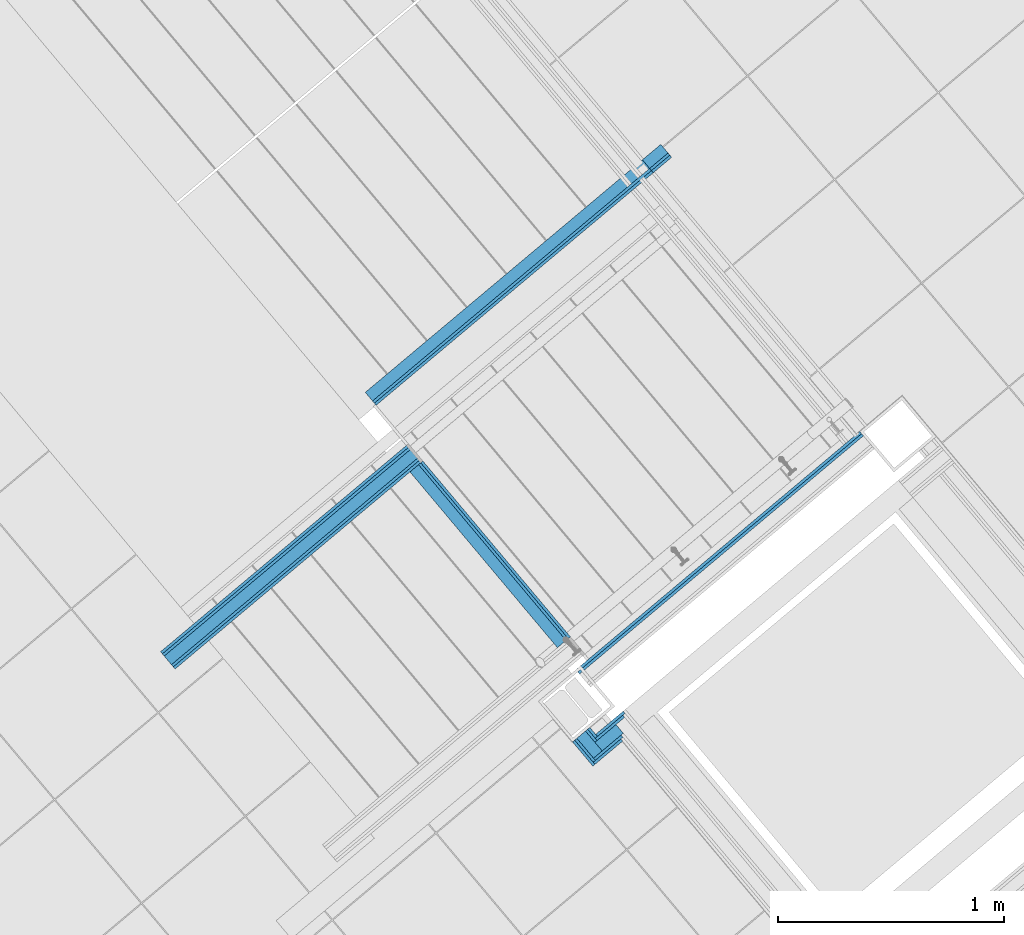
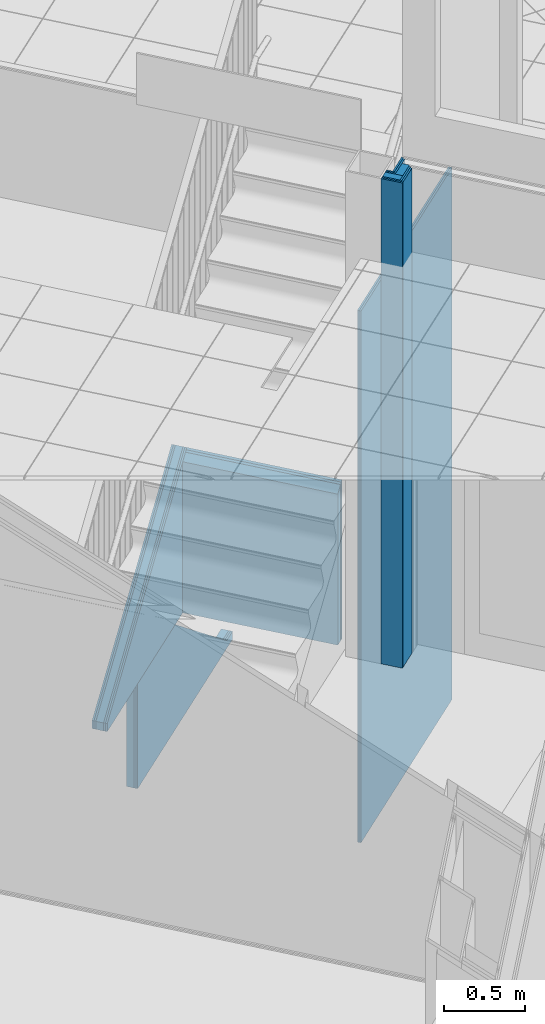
# One storey, part 69 of 338: 23 building element parts, 6 elements without a shape of their own.
"""IFC2X3 building model written with IfcOpenShell, lengths in millimetres."""

from ifc_helpers import new_model, entity, si_unit, converted_unit, derived_unit, money_unit, direction, frame, origin_with_axes, place, context, subcontext, project, spatial, faceted_brep, material, type_object, element, aggregate, save


model = new_model("IFC2X3")

# Units and contexts
model_context = context("Model", 3, precision=0.01, world=origin_with_axes(), true_north=direction((0.0, 1.0)))
plan_context = context("Plan", 3, precision=0.01, world=origin_with_axes(), true_north=direction((0.0, 1.0)))
body_context = subcontext(model_context, "Body", "Model", "MODEL_VIEW")
ifc_project = project(units=[si_unit("LENGTHUNIT", "METRE", prefix="MILLI"), si_unit("AREAUNIT", "SQUARE_METRE"), si_unit("VOLUMEUNIT", "CUBIC_METRE"), converted_unit("PLANEANGLEUNIT", "DEGREE", entity("IfcPlaneAngleMeasure", 0.0174532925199), si_unit("PLANEANGLEUNIT", "RADIAN"), dimensions=[0, 0, 0, 0, 0, 0, 0]), money_unit("EUR"), converted_unit("TIMEUNIT", "Year", entity("IfcTimeMeasure", 31556926.0), si_unit("TIMEUNIT", "SECOND"), dimensions=[0, 0, 1, 0, 0, 0, 0]), si_unit("MASSUNIT", "GRAM", prefix="KILO"), si_unit("THERMODYNAMICTEMPERATUREUNIT", "DEGREE_CELSIUS"), si_unit("LUMINOUSINTENSITYUNIT", "LUMEN"), si_unit("ENERGYUNIT", "JOULE", prefix="MEGA"), derived_unit("THERMALCONDUCTANCEUNIT", [(si_unit("POWERUNIT", "WATT"), 1), (si_unit("LENGTHUNIT", "METRE"), -1), (si_unit("THERMODYNAMICTEMPERATUREUNIT", "KELVIN"), -1)]), derived_unit("SPECIFICHEATCAPACITYUNIT", [(si_unit("ENERGYUNIT", "JOULE"), 1), (si_unit("MASSUNIT", "GRAM", prefix="KILO"), -1), (si_unit("THERMODYNAMICTEMPERATUREUNIT", "KELVIN"), -1)]), derived_unit("MASSDENSITYUNIT", [(si_unit("MASSUNIT", "GRAM", prefix="KILO"), 1), (si_unit("VOLUMEUNIT", "CUBIC_METRE"), -1)])], contexts=[model_context, plan_context])

# Site, building, storey
site_placement = place(None, origin_with_axes())
site = spatial("IfcSite", under=ifc_project, at=site_placement, Name="Fortuinstraat Woensdrecht", CompositionType="ELEMENT")
building_placement = place(site_placement, origin_with_axes())
building = spatial("IfcBuilding", under=site, at=building_placement, Name="IKC Fortuna", CompositionType="ELEMENT")
storey_placement = place(building_placement, origin_with_axes())
storey = spatial("IfcBuildingStorey", under=building, at=storey_placement, Name="00 begane grond", CompositionType="ELEMENT", Elevation=0.0)

# Wall, building element parts
wall_type_1 = type_object("IfcWallType", Name="MS75 50.2A 75", PredefinedType="NOTDEFINED")
wall_1_placement = place(storey_placement, frame((20977.235377, 3057.79515396, -90.0), z_axis=(0.0, 0.0, 1.0), x_axis=(-0.766052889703, -0.642777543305, 0.0)))
wall_1 = element("IfcWall", 1, at=wall_1_placement, inside=storey, type_object=wall_type_1, Name="22_Wand_Binnenwand")
ifc_material_1 = material(Name="Gipsplaat")
building_element_part_1_placement = place(wall_1_placement, origin_with_axes())
building_element_part_1 = element("IfcBuildingElementPart", 2, at=building_element_part_1_placement, material=ifc_material_1, Name="Gipsplaat", context=body_context, shape_type="Brep", body=[
    faceted_brep([(0.0, -12.5, 60.0), (0.0, 0.0, 60.0), (0.0, 0.0, 0.0), (0.0, -12.5, 0.0), (106.419482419, 0.00139842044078, 60.0), (106.419646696, -12.5, 60.0), (266.846786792, 0.00350653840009, 186.423690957), (1709.99996704, 0.022470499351, 1323.69114288), (1710.00228549, 0.0, 0.0), (1710.00228549, -12.5, 0.0), (1710.00013159, -12.5000000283, 1323.69114288), (266.846951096, -12.5, 186.423690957)], [[[0, 1, 2, 3]], [[4, 1, 0, 5]], [[6, 7, 8, 2, 1, 4]], [[9, 3, 2, 8]], [[5, 0, 3, 9, 10, 11]], [[6, 4, 5, 11]], [[6, 11, 10, 7]], [[7, 10, 9, 8]]]),
])
building_element_part_2_placement = place(wall_1_placement, origin_with_axes())
building_element_part_2 = element("IfcBuildingElementPart", 3, at=building_element_part_2_placement, material=ifc_material_1, Name="Gipsplaat", context=body_context, shape_type="Brep", body=[
    faceted_brep([(0.0, -25.0, 60.0), (0.0, -12.5, 60.0), (0.0, -12.5, 0.0), (0.0, -25.0, 0.0), (106.419646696, -12.5, 60.0), (106.419810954, -25.0, 60.0), (266.846951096, -12.5, 186.423690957), (1710.00013159, -12.5000000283, 1323.69114288), (1710.00228549, -12.5, 0.0), (1710.00228549, -25.0, 0.0), (1710.00029585, -25.0000000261, 1323.69114288), (266.847115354, -25.0, 186.423690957)], [[[0, 1, 2, 3]], [[4, 1, 0, 5]], [[6, 7, 8, 2, 1, 4]], [[9, 3, 2, 8]], [[5, 0, 3, 9, 10, 11]], [[6, 4, 5, 11]], [[7, 6, 11, 10]], [[7, 10, 9, 8]]]),
])
ifc_material_2 = material(Name="Isolatie - Steenwol LSW")
building_element_part_3_placement = place(wall_1_placement, origin_with_axes())
building_element_part_3 = element("IfcBuildingElementPart", 4, at=building_element_part_3_placement, material=ifc_material_2, Name="Isolatie - Steenwol LSW", context=body_context, shape_type="Brep", body=[
    faceted_brep([(0.0, -75.0, 60.0), (0.0, -25.0, 60.0), (0.0, -25.0, 0.0), (0.0, -75.0, 0.0), (106.419810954, -25.0, 60.0), (106.420467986, -75.0, 60.0), (266.847115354, -25.0, 186.423690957), (1710.00029585, -25.0000000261, 1323.69114288), (1710.00228549, -25.0, 0.0), (1710.00228549, -75.0, 0.0), (1710.00095288, -75.0000000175, 1323.69114288), (266.847772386, -75.0, 186.423690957)], [[[0, 1, 2, 3]], [[4, 1, 0, 5]], [[6, 7, 8, 2, 1, 4]], [[9, 3, 2, 8]], [[5, 0, 3, 9, 10, 11]], [[6, 4, 5, 11]], [[7, 6, 11, 10]], [[7, 10, 9, 8]]]),
])
aggregate(wall_1, [building_element_part_1, building_element_part_2, building_element_part_3])

wall_type_2 = type_object("IfcWallType", Name="MS100 2.50.2A 100", PredefinedType="NOTDEFINED")
wall_2_placement = place(storey_placement, frame((21811.0378259, 1842.40598777, -90.0), z_axis=(0.0, 0.0, 1.0), x_axis=(-0.766044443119, -0.642787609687, 0.0)))
wall_2 = element("IfcWall", 5, at=wall_2_placement, inside=storey, type_object=wall_type_2, Name="22_Wand_Binnenwand")
building_element_part_4_placement = place(wall_2_placement, origin_with_axes())
building_element_part_4 = element("IfcBuildingElementPart", 6, at=building_element_part_4_placement, material=ifc_material_1, Name="Gipsplaat", context=body_context, shape_type="Brep", body=[
    faceted_brep([(1642.49258877, 12.5, 4000.0), (1642.49258877, 25.0, 4000.0), (0.0, 25.0, 4000.0), (0.0, 12.5, 4000.0), (1642.49258877, 12.5, 0.0), (1642.49258877, 25.0, 0.0), (0.0, 25.0, 0.0), (0.0, 12.5, 0.0)], [[[0, 1, 2, 3]], [[0, 4, 5, 1]], [[1, 5, 6, 2]], [[3, 2, 6, 7]], [[4, 0, 3, 7]], [[5, 4, 7, 6]]]),
])
building_element_part_5_placement = place(wall_2_placement, origin_with_axes())
building_element_part_5 = element("IfcBuildingElementPart", 7, at=building_element_part_5_placement, material=ifc_material_1, Name="Gipsplaat", context=body_context, shape_type="Brep", body=[
    faceted_brep([(1642.49258877, 0.0, 4000.0), (1642.49258877, 12.5, 4000.0), (0.0, 12.5, 4000.0), (0.0, 0.0, 4000.0), (1642.49258877, 0.0, 0.0), (1642.49258877, 12.5, 0.0), (0.0, 12.5, 0.0), (0.0, 0.0, 0.0)], [[[0, 1, 2, 3]], [[0, 4, 5, 1]], [[1, 5, 6, 2]], [[3, 2, 6, 7]], [[4, 0, 3, 7]], [[5, 4, 7, 6]]]),
])
aggregate(wall_2, [building_element_part_4, building_element_part_5])

wall_3_placement = place(storey_placement, frame((18711.8878376, 866.446851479, 1360.0), z_axis=(0.0, 0.0, 1.0), x_axis=(0.766044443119, 0.642787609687, 0.0)))
wall_3 = element("IfcWall", 8, at=wall_3_placement, inside=storey, type_object=wall_type_2, Name="22_Wand_Binnenwand")
building_element_part_6_placement = place(wall_3_placement, origin_with_axes())
building_element_part_6 = element("IfcBuildingElementPart", 9, at=building_element_part_6_placement, material=ifc_material_1, Name="Gipsplaat", context=body_context, shape_type="Brep", body=[
    faceted_brep([(1433.92843167, 0.0, 1195.56444123), (1433.92843167, -12.5, 1195.56444123), (1433.92843167, -12.5, 0.0), (1433.92843167, 0.0, 0.0), (160.970417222, -12.5, 187.476572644), (160.970417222, 0.0, 187.476572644), (0.0, -12.5, 60.0), (0.0, -12.5, 0.0), (0.0, 0.0, 0.0), (0.0, 0.0, 60.0)], [[[0, 1, 2, 3]], [[4, 1, 0, 5]], [[4, 6, 7, 2, 1]], [[8, 3, 2, 7]], [[5, 0, 3, 8, 9]], [[6, 4, 5, 9]], [[6, 9, 8, 7]]]),
])
building_element_part_7_placement = place(wall_3_placement, origin_with_axes())
building_element_part_7 = element("IfcBuildingElementPart", 10, at=building_element_part_7_placement, material=ifc_material_1, Name="Gipsplaat", context=body_context, shape_type="Brep", body=[
    faceted_brep([(1433.92843167, -12.5, 1195.56444123), (1433.92843167, -25.0, 1195.56444123), (1433.92843167, -25.0, 0.0), (1433.92843167, -12.5, 0.0), (160.970417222, -25.0, 187.476572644), (160.970417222, -12.5, 187.476572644), (0.0, -25.0, 60.0), (0.0, -25.0, 0.0), (0.0, -12.5, 0.0), (0.0, -12.5, 60.0)], [[[0, 1, 2, 3]], [[4, 1, 0, 5]], [[4, 6, 7, 2, 1]], [[8, 3, 2, 7]], [[5, 0, 3, 8, 9]], [[6, 4, 5, 9]], [[6, 9, 8, 7]]]),
])
building_element_part_8_placement = place(wall_3_placement, origin_with_axes())
building_element_part_8 = element("IfcBuildingElementPart", 11, at=building_element_part_8_placement, material=ifc_material_2, Name="Isolatie - Steenwol LSW", context=body_context, shape_type="Brep", body=[
    faceted_brep([(1433.92843167, -25.0, 1195.56444123), (1433.92843167, -75.0, 1195.56444123), (1433.92843167, -75.0, 0.0), (1433.92843167, -25.0, 0.0), (160.970417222, -75.0, 187.476572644), (160.970417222, -25.0, 187.476572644), (0.0, -75.0, 60.0), (0.0, -75.0, 0.0), (0.0, -25.0, 0.0), (0.0, -25.0, 60.0)], [[[0, 1, 2, 3]], [[4, 1, 0, 5]], [[4, 6, 7, 2, 1]], [[8, 3, 2, 7]], [[5, 0, 3, 8, 9]], [[6, 4, 5, 9]], [[6, 9, 8, 7]]]),
])
building_element_part_9_placement = place(wall_3_placement, origin_with_axes())
building_element_part_9 = element("IfcBuildingElementPart", 12, at=building_element_part_9_placement, material=ifc_material_1, Name="Gipsplaat", context=body_context, shape_type="Brep", body=[
    faceted_brep([(1433.92843167, -75.0, 1195.56444123), (1433.92843167, -87.5, 1195.56444123), (1433.92843167, -87.5, 0.0), (1433.92843167, -75.0, 0.0), (160.970417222, -87.5, 187.476572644), (160.970417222, -75.0, 187.476572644), (0.0, -87.5, 60.0), (0.0, -87.5, 0.0), (0.0, -75.0, 0.0), (0.0, -75.0, 60.0)], [[[0, 1, 2, 3]], [[4, 1, 0, 5]], [[4, 6, 7, 2, 1]], [[8, 3, 2, 7]], [[5, 0, 3, 8, 9]], [[6, 4, 5, 9]], [[6, 9, 8, 7]]]),
])
building_element_part_10_placement = place(wall_3_placement, origin_with_axes())
building_element_part_10 = element("IfcBuildingElementPart", 13, at=building_element_part_10_placement, material=ifc_material_1, Name="Gipsplaat", context=body_context, shape_type="Brep", body=[
    faceted_brep([(1433.92843167, -87.5, 1195.56444123), (1433.92843167, -100.0, 1195.56444123), (1433.92843167, -100.0, 0.0), (1433.92843167, -87.5, 0.0), (160.970417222, -100.0, 187.476572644), (160.970417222, -87.5, 187.476572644), (0.0, -100.0, 60.0), (0.0, -100.0, 0.0), (0.0, -87.5, 0.0), (0.0, -87.5, 60.0)], [[[0, 1, 2, 3]], [[4, 1, 0, 5]], [[4, 6, 7, 2, 1]], [[8, 3, 2, 7]], [[5, 0, 3, 8, 9]], [[6, 4, 5, 9]], [[6, 9, 8, 7]]]),
])
aggregate(wall_3, [building_element_part_6, building_element_part_7, building_element_part_8, building_element_part_9, building_element_part_10])

wall_4_placement = place(storey_placement, frame((19752.8874113, 1739.94920981, 1360.0), z_axis=(0.0, 0.0, 1.0), x_axis=(0.642787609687, -0.766044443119, 0.0)))
wall_4 = element("IfcWall", 14, at=wall_4_placement, inside=storey, type_object=wall_type_1, Name="22_Wand_Binnenwand")
building_element_part_11_placement = place(wall_4_placement, origin_with_axes())
building_element_part_11 = element("IfcBuildingElementPart", 15, at=building_element_part_11_placement, material=ifc_material_1, Name="Gipsplaat", context=body_context, shape_type="Brep", body=[
    faceted_brep([(100.0, 75.0, 1195.56444123), (1116.99008786, 75.0, 1195.56444123), (1116.99008786, 75.0, 0.0), (100.0, 75.0, 0.0), (1116.99008786, 62.5, 1185.66537291), (100.0, 62.5, 1185.66537291), (1116.99008786, 62.5, 0.0), (100.0, 62.5, 0.0)], [[[0, 1, 2, 3]], [[4, 1, 0, 5]], [[1, 4, 6, 2]], [[2, 6, 7, 3]], [[5, 0, 3, 7]], [[4, 5, 7, 6]]]),
])
building_element_part_12_placement = place(wall_4_placement, origin_with_axes())
building_element_part_12 = element("IfcBuildingElementPart", 16, at=building_element_part_12_placement, material=ifc_material_1, Name="Gipsplaat", context=body_context, shape_type="Brep", body=[
    faceted_brep([(100.0, 62.5, 1185.66537291), (1116.99008786, 62.5, 1185.66537291), (1116.99008786, 62.5, 0.0), (100.0, 62.5, 0.0), (1116.99008786, 50.0, 1175.76630459), (100.0, 50.0, 1175.76630459), (1116.99008786, 50.0, 0.0), (100.0, 50.0, 0.0)], [[[0, 1, 2, 3]], [[4, 1, 0, 5]], [[1, 4, 6, 2]], [[2, 6, 7, 3]], [[5, 0, 3, 7]], [[4, 5, 7, 6]]]),
])
building_element_part_13_placement = place(wall_4_placement, origin_with_axes())
building_element_part_13 = element("IfcBuildingElementPart", 17, at=building_element_part_13_placement, material=ifc_material_2, Name="Isolatie - Steenwol LSW", context=body_context, shape_type="Brep", body=[
    faceted_brep([(100.0, 50.0, 1175.76630459), (1116.99008786, 50.0, 1175.76630459), (1116.99008786, 50.0, 0.0), (100.0, 50.0, 0.0), (1116.99008786, 0.0, 1136.17003129), (100.0, 0.0, 1136.17003129), (1116.99008786, 0.0, 0.0), (100.0, 0.0, 0.0)], [[[0, 1, 2, 3]], [[4, 1, 0, 5]], [[1, 4, 6, 2]], [[2, 6, 7, 3]], [[5, 0, 3, 7]], [[4, 5, 7, 6]]]),
])
aggregate(wall_4, [building_element_part_11, building_element_part_12, building_element_part_13])

wall_5_placement = place(storey_placement, frame((20537.6940756, 466.738256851, 1450.0), z_axis=(0.0, 0.0, 1.0), x_axis=(0.642787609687, -0.766044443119, 0.0)))
wall_5 = element("IfcWall", 18, at=wall_5_placement, inside=storey, type_object=wall_type_2, Name="22_Wand_Binnenwand")
building_element_part_14_placement = place(wall_5_placement, origin_with_axes())
building_element_part_14 = element("IfcBuildingElementPart", 19, at=building_element_part_14_placement, material=ifc_material_1, Name="Gipsplaat", context=body_context, shape_type="Brep", body=[
    faceted_brep([(52.6669682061, 100.0, 3650.0), (0.0, 100.0, 3650.0), (0.0, 87.5, 3650.0), (52.6669682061, 87.5, 3650.0), (52.6669682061, 100.0, 0.0), (0.0, 100.0, 0.0), (0.0, 87.5, 0.0), (52.6669682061, 87.5, 0.0)], [[[0, 1, 2, 3]], [[4, 5, 1, 0]], [[2, 1, 5, 6]], [[3, 2, 6, 7]], [[3, 7, 4, 0]], [[7, 6, 5, 4]]]),
])
building_element_part_15_placement = place(wall_5_placement, origin_with_axes())
building_element_part_15 = element("IfcBuildingElementPart", 20, at=building_element_part_15_placement, material=ifc_material_1, Name="Gipsplaat", context=body_context, shape_type="Brep", body=[
    faceted_brep([(65.1669682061, 87.5, 3650.0), (0.0, 87.5, 3650.0), (0.0, 75.0, 3650.0), (65.1669682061, 75.0, 3650.0), (65.1669682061, 87.5, 0.0), (0.0, 87.5, 0.0), (0.0, 75.0, 0.0), (65.1669682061, 75.0, 0.0)], [[[0, 1, 2, 3]], [[4, 5, 1, 0]], [[2, 1, 5, 6]], [[3, 2, 6, 7]], [[3, 7, 4, 0]], [[7, 6, 5, 4]]]),
])
building_element_part_16_placement = place(wall_5_placement, origin_with_axes())
building_element_part_16 = element("IfcBuildingElementPart", 21, at=building_element_part_16_placement, material=ifc_material_2, Name="Isolatie - Steenwol LSW", context=body_context, shape_type="Brep", body=[
    faceted_brep([(115.166968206, 75.0, 3650.0), (0.0, 75.0, 3650.0), (0.0, 25.0, 3650.0), (115.166968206, 25.0, 3650.0), (115.166968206, 75.0, 0.0), (0.0, 75.0, 0.0), (0.0, 25.0, 0.0), (115.166968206, 25.0, 0.0)], [[[0, 1, 2, 3]], [[4, 5, 1, 0]], [[2, 1, 5, 6]], [[3, 2, 6, 7]], [[3, 7, 4, 0]], [[7, 6, 5, 4]]]),
])
building_element_part_17_placement = place(wall_5_placement, origin_with_axes())
building_element_part_17 = element("IfcBuildingElementPart", 22, at=building_element_part_17_placement, material=ifc_material_1, Name="Gipsplaat", context=body_context, shape_type="Brep", body=[
    faceted_brep([(127.666968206, 25.0, 3650.0), (0.0, 25.0, 3650.0), (0.0, 12.5, 3650.0), (127.666968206, 12.5, 3650.0), (127.666968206, 25.0, 0.0), (0.0, 25.0, 0.0), (0.0, 12.5, 0.0), (127.666968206, 12.5, 0.0)], [[[0, 1, 2, 3]], [[4, 5, 1, 0]], [[2, 1, 5, 6]], [[3, 2, 6, 7]], [[3, 7, 4, 0]], [[7, 6, 5, 4]]]),
])
building_element_part_18_placement = place(wall_5_placement, origin_with_axes())
building_element_part_18 = element("IfcBuildingElementPart", 23, at=building_element_part_18_placement, material=ifc_material_1, Name="Gipsplaat", context=body_context, shape_type="Brep", body=[
    faceted_brep([(140.166968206, 12.5, 3650.0), (0.0, 12.5, 3650.0), (0.0, 0.0, 3650.0), (140.166968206, 0.0, 3650.0), (140.166968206, 12.5, 0.0), (0.0, 12.5, 0.0), (0.0, 0.0, 0.0), (140.166968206, 0.0, 0.0)], [[[0, 1, 2, 3]], [[4, 5, 1, 0]], [[2, 1, 5, 6]], [[3, 2, 6, 7]], [[3, 7, 4, 0]], [[7, 6, 5, 4]]]),
])
aggregate(wall_5, [building_element_part_14, building_element_part_15, building_element_part_16, building_element_part_17, building_element_part_18])

wall_6_placement = place(storey_placement, frame((20627.791666, 359.364129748, 1450.0), z_axis=(0.0, 0.0, 1.0), x_axis=(0.766044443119, 0.642787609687, 0.0)))
wall_6 = element("IfcWall", 24, at=wall_6_placement, inside=storey, type_object=wall_type_2, Name="22_Wand_Binnenwand")
building_element_part_19_placement = place(wall_6_placement, origin_with_axes())
building_element_part_19 = element("IfcBuildingElementPart", 25, at=building_element_part_19_placement, material=ifc_material_1, Name="Gipsplaat", context=body_context, shape_type="Brep", body=[
    faceted_brep([(259.700012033, 100.0, 3650.0), (100.0, 100.0, 3650.0), (100.0, 87.5, 3650.0), (259.700012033, 87.5, 3650.0), (259.700012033, 100.0, 0.0), (100.0, 100.0, 0.0), (100.0, 87.5, 0.0), (259.700012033, 87.5, 0.0)], [[[0, 1, 2, 3]], [[4, 5, 1, 0]], [[2, 1, 5, 6]], [[3, 2, 6, 7]], [[3, 7, 4, 0]], [[7, 6, 5, 4]]]),
])
building_element_part_20_placement = place(wall_6_placement, origin_with_axes())
building_element_part_20 = element("IfcBuildingElementPart", 26, at=building_element_part_20_placement, material=ifc_material_1, Name="Gipsplaat", context=body_context, shape_type="Brep", body=[
    faceted_brep([(247.200012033, 87.5, 3650.0), (87.5, 87.5, 3650.0), (87.5, 75.0, 3650.0), (247.200012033, 75.0, 3650.0), (247.200012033, 87.5, 0.0), (87.5, 87.5, 0.0), (87.5, 75.0, 0.0), (247.200012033, 75.0, 0.0)], [[[0, 1, 2, 3]], [[4, 5, 1, 0]], [[2, 1, 5, 6]], [[3, 2, 6, 7]], [[3, 7, 4, 0]], [[7, 6, 5, 4]]]),
])
building_element_part_21_placement = place(wall_6_placement, origin_with_axes())
building_element_part_21 = element("IfcBuildingElementPart", 27, at=building_element_part_21_placement, material=ifc_material_2, Name="Isolatie - Steenwol LSW", context=body_context, shape_type="Brep", body=[
    faceted_brep([(197.200012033, 75.0, 3650.0), (75.0, 75.0, 3650.0), (75.0, 25.0, 3650.0), (197.200012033, 25.0, 3650.0), (197.200012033, 75.0, 0.0), (75.0, 75.0, 0.0), (75.0, 25.0, 0.0), (197.200012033, 25.0, 0.0)], [[[0, 1, 2, 3]], [[4, 5, 1, 0]], [[2, 1, 5, 6]], [[3, 2, 6, 7]], [[3, 7, 4, 0]], [[7, 6, 5, 4]]]),
])
building_element_part_22_placement = place(wall_6_placement, origin_with_axes())
building_element_part_22 = element("IfcBuildingElementPart", 28, at=building_element_part_22_placement, material=ifc_material_1, Name="Gipsplaat", context=body_context, shape_type="Brep", body=[
    faceted_brep([(184.700012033, 25.0, 3650.0), (25.0, 25.0, 3650.0), (25.0, 12.5, 3650.0), (184.700012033, 12.5, 3650.0), (184.700012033, 25.0, 0.0), (25.0, 25.0, 0.0), (25.0, 12.5, 0.0), (184.700012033, 12.5, 0.0)], [[[0, 1, 2, 3]], [[4, 5, 1, 0]], [[2, 1, 5, 6]], [[3, 2, 6, 7]], [[3, 7, 4, 0]], [[7, 6, 5, 4]]]),
])
building_element_part_23_placement = place(wall_6_placement, origin_with_axes())
building_element_part_23 = element("IfcBuildingElementPart", 29, at=building_element_part_23_placement, material=ifc_material_1, Name="Gipsplaat", context=body_context, shape_type="Brep", body=[
    faceted_brep([(172.200012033, 12.5, 3650.0), (12.5, 12.5, 3650.0), (12.5, 0.0, 3650.0), (172.200012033, 0.0, 3650.0), (172.200012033, 12.5, 0.0), (12.5, 12.5, 0.0), (12.5, 0.0, 0.0), (172.200012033, 0.0, 0.0)], [[[0, 1, 2, 3]], [[4, 5, 1, 0]], [[2, 1, 5, 6]], [[3, 2, 6, 7]], [[3, 7, 4, 0]], [[7, 6, 5, 4]]]),
])
aggregate(wall_6, [building_element_part_19, building_element_part_20, building_element_part_21, building_element_part_22, building_element_part_23])

save(model, "model.ifc")
